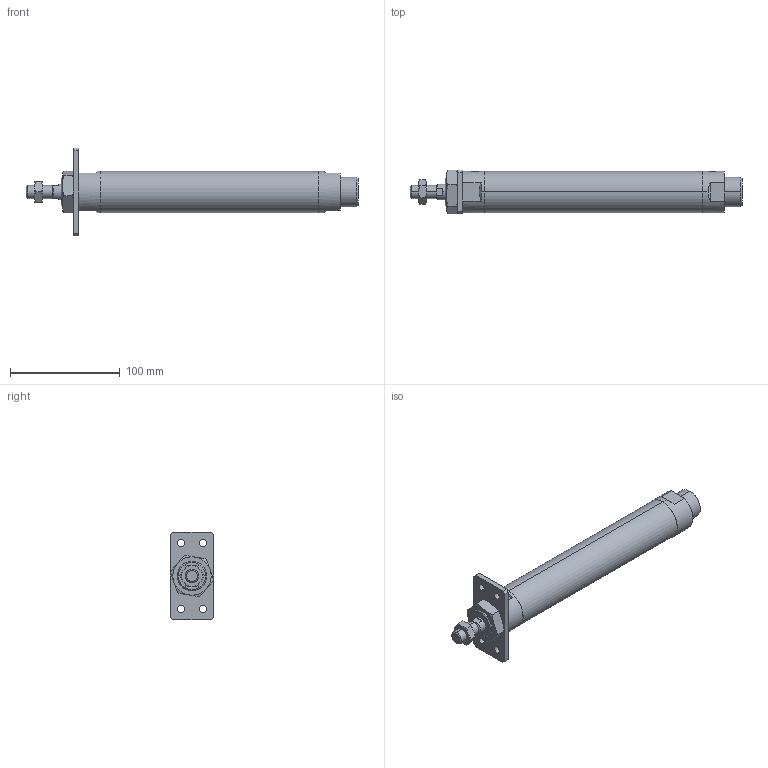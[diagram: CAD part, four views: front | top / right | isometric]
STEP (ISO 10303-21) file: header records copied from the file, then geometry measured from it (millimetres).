
FILE_DESCRIPTION (( 'STEP AP203' ), '1' );
FILE_NAME ('J#2-32-150-A.STEP', '2016-03-08T07:40:33', ( '' ), ( '' ), 'SwSTEP 2.0', 'SolidWorks 2014', '' );
FILE_SCHEMA (( 'CONFIG_CONTROL_DESIGN' ));
Length unit declared in the file: millimetre
Products named in the file (5): J#2-32-A; J#2-32-150-A; J#2-32-150
Assembly tree (4 placements, depth 2):
  J#2-32-150-A
    J#2-32-150
    (unnamed)
    (unnamed)
    J#2-32-A
Bounding box: 303 x 40 x 80 mm (x, y, z)
Volume: 302569.1 mm3; surface area: 46500 mm2
Topology: 4 solids, 4 shells, 114 faces, 264 edges, 161 vertices
Faces by surface type: plane 43, cylinder 32, torus 24, cone 15
Entity records: 4214 total; most frequent: CARTESIAN_POINT 1149, DIRECTION 537, ORIENTED_EDGE 520, EDGE_CURVE 260, AXIS2_PLACEMENT_3D 219, VERTEX_POINT 161, EDGE_LOOP 135, FACE_OUTER_BOUND 114
